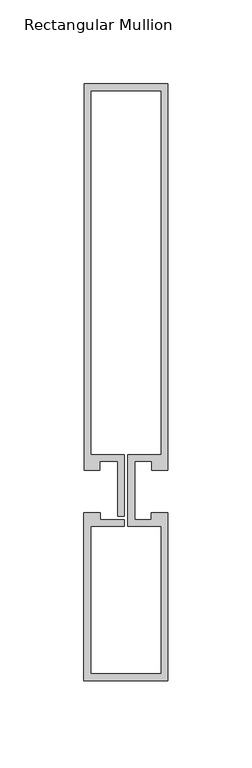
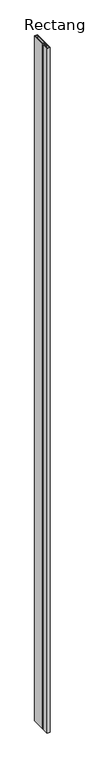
"""IFC4 building model written with IfcOpenShell, lengths in millimetres: member geometry, Rectangular Mullion : Reynaers_CW-50_Transom-Transom_230.5mm_Facecap-02D."""

from ifc_helpers import new_model, si_unit, frame, origin, place, context, project, spatial, polyline, outline, extrude, source, transform, mapped, element, save


def rectangular_mullion_1290e9c1(model_context):
    return source(origin(), model_context, "Body", "SweptSolid", [
        extrude(outline(polyline([(25.1995941, -12.7331291), (25.1995941, -112.7331291), (-24.994845, -112.7331291), (-24.994845, -12.7331291), (-15.2996495, -12.7331291), (-15.2996495, -16.7331291), (-0.9004059, -16.7331291), (-0.9004059, -20.7331291), (-20.994845, -20.7331291), (-20.994845, -108.7331291), (21.1995941, -108.7331291), (21.1995941, -20.7331291), (1.2995941, -20.7331291), (1.2995941, 22.1331291), (21.1995941, 22.1331291), (21.1995941, 239.2331291), (-20.8004059, 239.2331291), (-20.8004059, 22.1331291), (-0.9004059, 22.1331291), (-0.9004059, -14.7331291), (-4.9004059, -14.7331291), (-4.9004059, 18.1331291), (-15.499, 18.1331291), (-15.499, 12.7331291), (-24.8004059, 12.7331291), (-24.8004059, 243.2331291), (25.1995941, 243.2331291), (25.1995941, 12.7331291), (15.499, 12.7331291), (15.499, 18.1331291), (5.2995941, 18.1331291), (5.2995941, -16.7331291), (15.2996495, -16.7331291), (15.2996495, -12.7331291), (25.1995941, -12.7331291)])), frame((0.0, 0.0, -12000.0), z_axis=(0.0, 0.0, 1.0), x_axis=(1.0, 0.0, 0.0)), (0.0, 0.0, 1.0), 12000.0),
    ])


if __name__ == "__main__":
    model = new_model("IFC4")
    model_context = context("Model", 3, world=origin())
    ifc_project = project(units=[si_unit("LENGTHUNIT", "METRE", prefix="MILLI")], contexts=[model_context])
    site = spatial("IfcSite", under=ifc_project)
    building = spatial("IfcBuilding", under=site)
    placement = place(None, origin())
    rectangular_mullion_shape = rectangular_mullion_1290e9c1(model_context)
    element("IfcMember", 1, ObjectType="Rectangular Mullion : Reynaers_CW-50_Transom-Transom_230.5mm_Facecap-02D", at=placement, inside=building, context=model_context, shape_type="MappedRepresentation", body=[
        mapped(rectangular_mullion_shape, transform((0.0, 0.0, 0.0), x_axis=(1.0, 0.0, 0.0), y_axis=(0.0, 1.0, 0.0), z_axis=(0.0, 0.0, 1.0))),
    ])
    save(model, "model.ifc")
